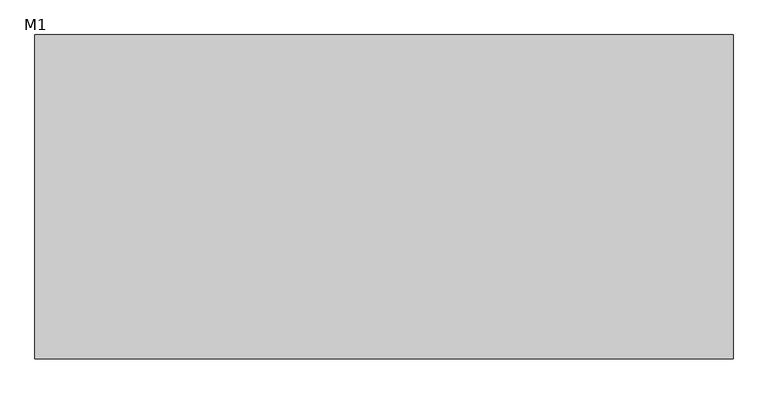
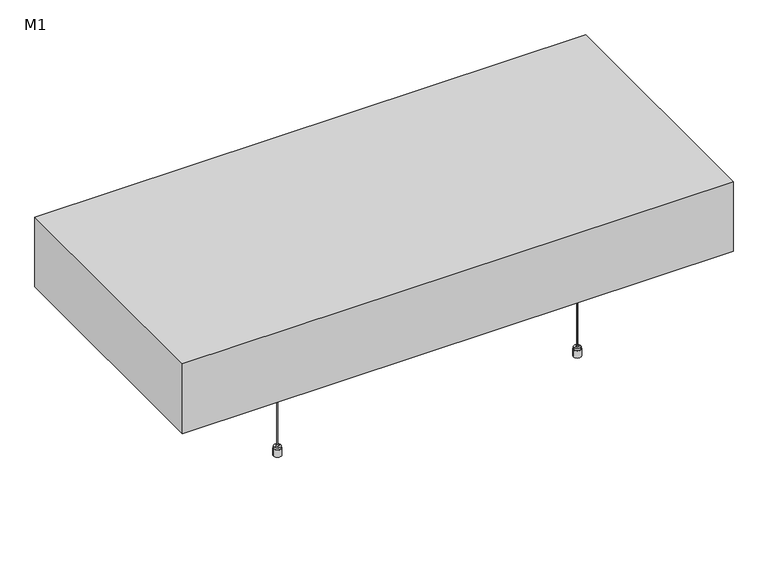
"""IFC4 building model written with IfcOpenShell, lengths in millimetres: proxy geometry, OWA Corpus : M1."""

from ifc_helpers import new_model, si_unit, point, frame, frame_2d, origin, place, context, project, spatial, polyline, circle_curve, trimmed, segment, composite_curve, outline, extrude, faceted_brep, source, transform, mapped, element, save
from ifc_brep_helpers import plane_surface, cylinder_surface, revolved_surface, advanced_brep


def m1_c52b9d84(model_context):
    return source(origin(), model_context, "Body", "SolidModel", [
        advanced_brep(
        [(-128.5, -152.5, 0.0), (-120.7593825, -152.5, 0.0), (-136.2406175, -152.5, 0.0), (-120.7593825, -152.5, 15.0), (-136.2406175, -152.5, 15.0), (-121.6843825, -152.5, 15.0), (-135.3156175, -152.5, 15.0), (-121.6843825, -152.5, 19.0), (-135.3156175, -152.5, 19.0), (-126.4343825, -152.5, 19.0), (-130.5656175, -152.5, 19.0), (-126.4343825, -152.5, 22.546183), (-130.5656175, -152.5, 22.546183), (-128.5, -152.5, 22.546183)],
        [
            (0, 1),
            (1, 2, circle_curve(frame((-128.5, -152.5, 0.0), z_axis=(0.0, 0.0, -1.0), x_axis=(-1.0, 0.0, 0.0)), 7.7406175)),
            (2, 0),
            (2, 1, circle_curve(frame((-128.5, -152.5, 0.0), z_axis=(0.0, 0.0, -1.0), x_axis=(-1.0, 0.0, 0.0)), 7.7406175)),
            (1, 3),
            (3, 4, circle_curve(frame((-128.5, -152.5, 15.0), z_axis=(0.0, 0.0, -1.0), x_axis=(-1.0, 0.0, 0.0)), 7.7406175)),
            (4, 2),
            (4, 3, circle_curve(frame((-128.5, -152.5, 15.0), z_axis=(0.0, 0.0, -1.0), x_axis=(-1.0, 0.0, 0.0)), 7.7406175)),
            (3, 5),
            (5, 6, circle_curve(frame((-128.5, -152.5, 15.0), z_axis=(0.0, 0.0, -1.0), x_axis=(-1.0, 0.0, 0.0)), 6.8156175)),
            (6, 4),
            (6, 5, circle_curve(frame((-128.5, -152.5, 15.0), z_axis=(0.0, 0.0, -1.0), x_axis=(-1.0, 0.0, 0.0)), 6.8156175)),
            (5, 7),
            (7, 8, circle_curve(frame((-128.5, -152.5, 19.0), z_axis=(0.0, 0.0, -1.0), x_axis=(-1.0, 0.0, 0.0)), 6.8156175)),
            (8, 6),
            (8, 7, circle_curve(frame((-128.5, -152.5, 19.0), z_axis=(0.0, 0.0, -1.0), x_axis=(-1.0, 0.0, 0.0)), 6.8156175)),
            (7, 9),
            (9, 10, circle_curve(frame((-128.5, -152.5, 19.0), z_axis=(0.0, 0.0, -1.0), x_axis=(-1.0, 0.0, 0.0)), 2.0656175)),
            (10, 8),
            (10, 9, circle_curve(frame((-128.5, -152.5, 19.0), z_axis=(0.0, 0.0, -1.0), x_axis=(-1.0, 0.0, 0.0)), 2.0656175)),
            (9, 11),
            (11, 12, circle_curve(frame((-128.5, -152.5, 22.546183), z_axis=(0.0, 0.0, -1.0), x_axis=(-1.0, 0.0, 0.0)), 2.0656175)),
            (12, 10),
            (12, 11, circle_curve(frame((-128.5, -152.5, 22.546183), z_axis=(0.0, 0.0, -1.0), x_axis=(-1.0, 0.0, 0.0)), 2.0656175)),
            (11, 13),
            (13, 12),
        ],
        [
            plane_surface(frame((-128.5, -152.5, 0.0), z_axis=(0.0, 0.0, -1.0), x_axis=(-1.0, 0.0, 0.0))),
            cylinder_surface(frame((-128.5, -152.5, -10.0), z_axis=(0.0, 0.0, -1.0), x_axis=(-1.0, 0.0, 0.0)), 7.7406175),
            plane_surface(frame((-128.5, -152.5, 15.0), z_axis=(0.0, 0.0, 1.0), x_axis=(-1.0, 0.0, 0.0))),
            cylinder_surface(frame((-128.5, -152.5, -10.0), z_axis=(0.0, 0.0, -1.0), x_axis=(-1.0, 0.0, 0.0)), 6.8156175),
            plane_surface(frame((-128.5, -152.5, 19.0), z_axis=(0.0, 0.0, 1.0), x_axis=(-1.0, 0.0, 0.0))),
            cylinder_surface(frame((-128.5, -152.5, -10.0), z_axis=(0.0, 0.0, -1.0), x_axis=(-1.0, 0.0, 0.0)), 2.0656175),
            plane_surface(frame((-128.5, -152.5, 22.546183), z_axis=(0.0, 0.0, 1.0), x_axis=(-1.0, 0.0, 0.0))),
        ],
        [
            (0, [[1, 2, 3]]),
            (0, [[-3, 4, -1]]),
            (1, [[5, 6, 7, -2]]),
            (1, [[-7, 8, -5, -4]]),
            (2, [[9, 10, 11, -6]]),
            (2, [[-11, 12, -9, -8]]),
            (3, [[13, 14, 15, -10]]),
            (3, [[-15, 16, -13, -12]]),
            (4, [[17, 18, 19, -14]]),
            (4, [[-19, 20, -17, -16]]),
            (5, [[21, 22, 23, -18]]),
            (5, [[-23, 24, -21, -20]]),
            (6, [[25, 26, -22]]),
            (6, [[-26, -25, -24]]),
        ],
    ),
        advanced_brep(
        [(-126.2615389, -152.5, 278.8211737), (-126.1339453, -152.5, 282.8711737), (-130.8660547, -152.5, 282.8711737), (-130.7384611, -152.5, 278.8211737), (-123.6339453, -152.5, 282.8711737), (-133.3660547, -152.5, 282.8711737), (-123.6339453, -152.5, 308.1211737), (-133.3660547, -152.5, 308.1211737), (-112.6339453, -152.5, 308.1211737), (-144.3660547, -152.5, 308.1211737), (-112.6339453, -152.5, 310.0), (-144.3660547, -152.5, 310.0), (-128.5, -152.5, 310.0), (-128.5, -152.5, 278.8211737)],
        [
            (0, 1),
            (1, 2, circle_curve(frame((-128.5, -152.5, 282.8711737), z_axis=(0.0, 0.0, -1.0), x_axis=(-1.0, 0.0, 0.0)), 2.3660547)),
            (2, 3),
            (3, 0, circle_curve(frame((-128.5, -152.5, 278.8211737), z_axis=(0.0, 0.0, 1.0), x_axis=(-1.0, 0.0, 0.0)), 2.2384611)),
            (2, 1, circle_curve(frame((-128.5, -152.5, 282.8711737), z_axis=(0.0, 0.0, -1.0), x_axis=(-1.0, 0.0, 0.0)), 2.3660547)),
            (0, 3, circle_curve(frame((-128.5, -152.5, 278.8211737), z_axis=(0.0, 0.0, 1.0), x_axis=(-1.0, 0.0, 0.0)), 2.2384611)),
            (1, 4),
            (4, 5, circle_curve(frame((-128.5, -152.5, 282.8711737), z_axis=(0.0, 0.0, -1.0), x_axis=(-1.0, 0.0, 0.0)), 4.8660547)),
            (5, 2),
            (5, 4, circle_curve(frame((-128.5, -152.5, 282.8711737), z_axis=(0.0, 0.0, -1.0), x_axis=(-1.0, 0.0, 0.0)), 4.8660547)),
            (4, 6),
            (6, 7, circle_curve(frame((-128.5, -152.5, 308.1211737), z_axis=(0.0, 0.0, -1.0), x_axis=(-1.0, 0.0, 0.0)), 4.8660547)),
            (7, 5),
            (7, 6, circle_curve(frame((-128.5, -152.5, 308.1211737), z_axis=(0.0, 0.0, -1.0), x_axis=(-1.0, 0.0, 0.0)), 4.8660547)),
            (6, 8),
            (8, 9, circle_curve(frame((-128.5, -152.5, 308.1211737), z_axis=(0.0, 0.0, -1.0), x_axis=(-1.0, 0.0, 0.0)), 15.8660547)),
            (9, 7),
            (9, 8, circle_curve(frame((-128.5, -152.5, 308.1211737), z_axis=(0.0, 0.0, -1.0), x_axis=(-1.0, 0.0, 0.0)), 15.8660547)),
            (8, 10),
            (10, 11, circle_curve(frame((-128.5, -152.5, 310.0), z_axis=(0.0, 0.0, -1.0), x_axis=(-1.0, 0.0, 0.0)), 15.8660547)),
            (11, 9),
            (11, 10, circle_curve(frame((-128.5, -152.5, 310.0), z_axis=(0.0, 0.0, -1.0), x_axis=(-1.0, 0.0, 0.0)), 15.8660547)),
            (10, 12),
            (12, 11),
            (13, 0),
            (3, 13),
        ],
        [
            revolved_surface(polyline([(-130.8660547, -152.5, 282.8711737), (-130.7384611, -152.5, 278.8211737)]), (-128.5, -152.5, 311.8401096), (0.0, 0.0, -1.0)),
            plane_surface(frame((-128.5, -152.5, 282.8711737), z_axis=(0.0, 0.0, -1.0), x_axis=(-1.0, 0.0, 0.0))),
            cylinder_surface(frame((-128.5, -152.5, 311.8401096), z_axis=(0.0, 0.0, -1.0), x_axis=(-1.0, 0.0, 0.0)), 4.8660547),
            plane_surface(frame((-128.5, -152.5, 308.1211737), z_axis=(0.0, 0.0, -1.0), x_axis=(-1.0, 0.0, 0.0))),
            cylinder_surface(frame((-128.5, -152.5, 311.8401096), z_axis=(0.0, 0.0, -1.0), x_axis=(-1.0, 0.0, 0.0)), 15.8660547),
            plane_surface(frame((-128.5, -152.5, 310.0), z_axis=(0.0, 0.0, 1.0), x_axis=(-1.0, 0.0, 0.0))),
            plane_surface(frame((-128.5, -152.5, 278.8211737), z_axis=(0.0, 0.0, -1.0), x_axis=(-1.0, 0.0, 0.0))),
        ],
        [
            (0, [[1, 2, 3, 4]]),
            (0, [[-3, 5, -1, 6]]),
            (1, [[7, 8, 9, -2]]),
            (1, [[-9, 10, -7, -5]]),
            (2, [[11, 12, 13, -8]]),
            (2, [[-13, 14, -11, -10]]),
            (3, [[15, 16, 17, -12]]),
            (3, [[-17, 18, -15, -14]]),
            (4, [[19, 20, 21, -16]]),
            (4, [[-21, 22, -19, -18]]),
            (5, [[23, 24, -20]]),
            (5, [[-24, -23, -22]]),
            (6, [[25, -4, 26]]),
            (6, [[-26, -6, -25]]),
        ],
    ),
        extrude(outline(composite_curve([segment(trimmed(circle_curve(frame_2d((-128.5, -152.5)), 1.0), [point((-129.5, -152.5))], [point((-127.5, -152.5))], False, "CARTESIAN"), True, "CONTINUOUS"), segment(trimmed(circle_curve(frame_2d((-128.5, -152.5)), 1.0), [point((-127.5, -152.5))], [point((-129.5, -152.5))], False, "CARTESIAN"), True, "CONTINUOUS")], self_intersect=False)), frame((0.0, 0.0, 22.546183), z_axis=(0.0, 0.0, 1.0), x_axis=(1.0, 0.0, 0.0)), (0.0, 0.0, 1.0), 256.2749908),
        advanced_brep(
        [(-128.5, 152.5, 0.0), (-136.2406175, 152.5, 0.0), (-120.7593825, 152.5, 0.0), (-136.2406175, 152.5, 15.0), (-120.7593825, 152.5, 15.0), (-135.3156175, 152.5, 15.0), (-121.6843825, 152.5, 15.0), (-135.3156175, 152.5, 19.0), (-121.6843825, 152.5, 19.0), (-130.5656175, 152.5, 19.0), (-126.4343825, 152.5, 19.0), (-130.5656175, 152.5, 22.546183), (-126.4343825, 152.5, 22.546183), (-128.5, 152.5, 22.546183)],
        [
            (0, 1),
            (1, 2, circle_curve(frame((-128.5, 152.5, 0.0), z_axis=(0.0, 0.0, -1.0), x_axis=(-1.0, 0.0, 0.0)), 7.7406175)),
            (2, 0),
            (2, 1, circle_curve(frame((-128.5, 152.5, 0.0), z_axis=(0.0, 0.0, -1.0), x_axis=(-1.0, 0.0, 0.0)), 7.7406175)),
            (1, 3),
            (3, 4, circle_curve(frame((-128.5, 152.5, 15.0), z_axis=(0.0, 0.0, -1.0), x_axis=(-1.0, 0.0, 0.0)), 7.7406175)),
            (4, 2),
            (4, 3, circle_curve(frame((-128.5, 152.5, 15.0), z_axis=(0.0, 0.0, -1.0), x_axis=(-1.0, 0.0, 0.0)), 7.7406175)),
            (3, 5),
            (5, 6, circle_curve(frame((-128.5, 152.5, 15.0), z_axis=(0.0, 0.0, -1.0), x_axis=(-1.0, 0.0, 0.0)), 6.8156175)),
            (6, 4),
            (6, 5, circle_curve(frame((-128.5, 152.5, 15.0), z_axis=(0.0, 0.0, -1.0), x_axis=(-1.0, 0.0, 0.0)), 6.8156175)),
            (5, 7),
            (7, 8, circle_curve(frame((-128.5, 152.5, 19.0), z_axis=(0.0, 0.0, -1.0), x_axis=(-1.0, 0.0, 0.0)), 6.8156175)),
            (8, 6),
            (8, 7, circle_curve(frame((-128.5, 152.5, 19.0), z_axis=(0.0, 0.0, -1.0), x_axis=(-1.0, 0.0, 0.0)), 6.8156175)),
            (7, 9),
            (9, 10, circle_curve(frame((-128.5, 152.5, 19.0), z_axis=(0.0, 0.0, -1.0), x_axis=(-1.0, 0.0, 0.0)), 2.0656175)),
            (10, 8),
            (10, 9, circle_curve(frame((-128.5, 152.5, 19.0), z_axis=(0.0, 0.0, -1.0), x_axis=(-1.0, 0.0, 0.0)), 2.0656175)),
            (9, 11),
            (11, 12, circle_curve(frame((-128.5, 152.5, 22.546183), z_axis=(0.0, 0.0, -1.0), x_axis=(-1.0, 0.0, 0.0)), 2.0656175)),
            (12, 10),
            (12, 11, circle_curve(frame((-128.5, 152.5, 22.546183), z_axis=(0.0, 0.0, -1.0), x_axis=(-1.0, 0.0, 0.0)), 2.0656175)),
            (11, 13),
            (13, 12),
        ],
        [
            plane_surface(frame((-128.5, 152.5, 0.0), z_axis=(0.0, 0.0, -1.0), x_axis=(-1.0, 0.0, 0.0))),
            cylinder_surface(frame((-128.5, 152.5, -10.0), z_axis=(0.0, 0.0, -1.0), x_axis=(-1.0, 0.0, 0.0)), 7.7406175),
            plane_surface(frame((-128.5, 152.5, 15.0), z_axis=(0.0, 0.0, 1.0), x_axis=(-1.0, 0.0, 0.0))),
            cylinder_surface(frame((-128.5, 152.5, -10.0), z_axis=(0.0, 0.0, -1.0), x_axis=(-1.0, 0.0, 0.0)), 6.8156175),
            plane_surface(frame((-128.5, 152.5, 19.0), z_axis=(0.0, 0.0, 1.0), x_axis=(-1.0, 0.0, 0.0))),
            cylinder_surface(frame((-128.5, 152.5, -10.0), z_axis=(0.0, 0.0, -1.0), x_axis=(-1.0, 0.0, 0.0)), 2.0656175),
            plane_surface(frame((-128.5, 152.5, 22.546183), z_axis=(0.0, 0.0, 1.0), x_axis=(-1.0, 0.0, 0.0))),
        ],
        [
            (0, [[1, 2, 3]]),
            (0, [[-3, 4, -1]]),
            (1, [[-2, 5, 6, 7]]),
            (1, [[-4, -7, 8, -5]]),
            (2, [[-6, 9, 10, 11]]),
            (2, [[-8, -11, 12, -9]]),
            (3, [[-10, 13, 14, 15]]),
            (3, [[-12, -15, 16, -13]]),
            (4, [[-14, 17, 18, 19]]),
            (4, [[-16, -19, 20, -17]]),
            (5, [[-18, 21, 22, 23]]),
            (5, [[-20, -23, 24, -21]]),
            (6, [[-22, 25, 26]]),
            (6, [[-24, -26, -25]]),
        ],
    ),
        advanced_brep(
        [(-126.2615389, 152.5, 278.8211737), (-130.7384611, 152.5, 278.8211737), (-130.8660547, 152.5, 282.8711737), (-126.1339453, 152.5, 282.8711737), (-133.3660547, 152.5, 282.8711737), (-123.6339453, 152.5, 282.8711737), (-133.3660547, 152.5, 308.1211737), (-123.6339453, 152.5, 308.1211737), (-144.3660547, 152.5, 308.1211737), (-112.6339453, 152.5, 308.1211737), (-144.3660547, 152.5, 310.0), (-112.6339453, 152.5, 310.0), (-128.5, 152.5, 310.0), (-128.5, 152.5, 278.8211737)],
        [
            (0, 1, circle_curve(frame((-128.5, 152.5, 278.8211737), z_axis=(0.0, 0.0, 1.0), x_axis=(-1.0, 0.0, 0.0)), 2.2384611)),
            (1, 2),
            (2, 3, circle_curve(frame((-128.5, 152.5, 282.8711737), z_axis=(0.0, 0.0, -1.0), x_axis=(-1.0, 0.0, 0.0)), 2.3660547)),
            (3, 0),
            (1, 0, circle_curve(frame((-128.5, 152.5, 278.8211737), z_axis=(0.0, 0.0, 1.0), x_axis=(-1.0, 0.0, 0.0)), 2.2384611)),
            (3, 2, circle_curve(frame((-128.5, 152.5, 282.8711737), z_axis=(0.0, 0.0, -1.0), x_axis=(-1.0, 0.0, 0.0)), 2.3660547)),
            (2, 4),
            (4, 5, circle_curve(frame((-128.5, 152.5, 282.8711737), z_axis=(0.0, 0.0, -1.0), x_axis=(-1.0, 0.0, 0.0)), 4.8660547)),
            (5, 3),
            (5, 4, circle_curve(frame((-128.5, 152.5, 282.8711737), z_axis=(0.0, 0.0, -1.0), x_axis=(-1.0, 0.0, 0.0)), 4.8660547)),
            (4, 6),
            (6, 7, circle_curve(frame((-128.5, 152.5, 308.1211737), z_axis=(0.0, 0.0, -1.0), x_axis=(-1.0, 0.0, 0.0)), 4.8660547)),
            (7, 5),
            (7, 6, circle_curve(frame((-128.5, 152.5, 308.1211737), z_axis=(0.0, 0.0, -1.0), x_axis=(-1.0, 0.0, 0.0)), 4.8660547)),
            (6, 8),
            (8, 9, circle_curve(frame((-128.5, 152.5, 308.1211737), z_axis=(0.0, 0.0, -1.0), x_axis=(-1.0, 0.0, 0.0)), 15.8660547)),
            (9, 7),
            (9, 8, circle_curve(frame((-128.5, 152.5, 308.1211737), z_axis=(0.0, 0.0, -1.0), x_axis=(-1.0, 0.0, 0.0)), 15.8660547)),
            (8, 10),
            (10, 11, circle_curve(frame((-128.5, 152.5, 310.0), z_axis=(0.0, 0.0, -1.0), x_axis=(-1.0, 0.0, 0.0)), 15.8660547)),
            (11, 9),
            (11, 10, circle_curve(frame((-128.5, 152.5, 310.0), z_axis=(0.0, 0.0, -1.0), x_axis=(-1.0, 0.0, 0.0)), 15.8660547)),
            (10, 12),
            (12, 11),
            (13, 1),
            (0, 13),
        ],
        [
            revolved_surface(polyline([(-130.8660547, 152.5, 282.8711737), (-130.7384611, 152.5, 278.8211737)]), (-128.5, 152.5, 311.8401096), (0.0, 0.0, -1.0)),
            plane_surface(frame((-128.5, 152.5, 282.8711737), z_axis=(0.0, 0.0, -1.0), x_axis=(-1.0, 0.0, 0.0))),
            cylinder_surface(frame((-128.5, 152.5, 311.8401096), z_axis=(0.0, 0.0, -1.0), x_axis=(-1.0, 0.0, 0.0)), 4.8660547),
            plane_surface(frame((-128.5, 152.5, 308.1211737), z_axis=(0.0, 0.0, -1.0), x_axis=(-1.0, 0.0, 0.0))),
            cylinder_surface(frame((-128.5, 152.5, 311.8401096), z_axis=(0.0, 0.0, -1.0), x_axis=(-1.0, 0.0, 0.0)), 15.8660547),
            plane_surface(frame((-128.5, 152.5, 310.0), z_axis=(0.0, 0.0, 1.0), x_axis=(-1.0, 0.0, 0.0))),
            plane_surface(frame((-128.5, 152.5, 278.8211737), z_axis=(0.0, 0.0, -1.0), x_axis=(-1.0, 0.0, 0.0))),
        ],
        [
            (0, [[1, 2, 3, 4]]),
            (0, [[5, -4, 6, -2]]),
            (1, [[-3, 7, 8, 9]]),
            (1, [[-6, -9, 10, -7]]),
            (2, [[-8, 11, 12, 13]]),
            (2, [[-10, -13, 14, -11]]),
            (3, [[-12, 15, 16, 17]]),
            (3, [[-14, -17, 18, -15]]),
            (4, [[-16, 19, 20, 21]]),
            (4, [[-18, -21, 22, -19]]),
            (5, [[-20, 23, 24]]),
            (5, [[-22, -24, -23]]),
            (6, [[25, -1, 26]]),
            (6, [[-26, -5, -25]]),
        ],
    ),
        extrude(outline(composite_curve([segment(trimmed(circle_curve(frame_2d((-128.5, 152.5)), 1.0), [point((-129.5, 152.5))], [point((-127.5, 152.5))], False, "CARTESIAN"), True, "CONTINUOUS"), segment(trimmed(circle_curve(frame_2d((-128.5, 152.5)), 1.0), [point((-127.5, 152.5))], [point((-129.5, 152.5))], False, "CARTESIAN"), True, "CONTINUOUS")], self_intersect=False)), frame((0.0, 0.0, 22.546183), z_axis=(0.0, 0.0, 1.0), x_axis=(1.0, 0.0, 0.0)), (0.0, 0.0, 1.0), 256.2749908),
        advanced_brep(
        [(-738.5, -152.5, 0.0), (-730.7593825, -152.5, 0.0), (-746.2406175, -152.5, 0.0), (-730.7593825, -152.5, 15.0), (-746.2406175, -152.5, 15.0), (-731.6843825, -152.5, 15.0), (-745.3156175, -152.5, 15.0), (-731.6843825, -152.5, 19.0), (-745.3156175, -152.5, 19.0), (-736.4343825, -152.5, 19.0), (-740.5656175, -152.5, 19.0), (-736.4343825, -152.5, 22.546183), (-740.5656175, -152.5, 22.546183), (-738.5, -152.5, 22.546183)],
        [
            (0, 1),
            (1, 2, circle_curve(frame((-738.5, -152.5, 0.0), z_axis=(0.0, 0.0, -1.0), x_axis=(-1.0, 0.0, 0.0)), 7.7406175)),
            (2, 0),
            (2, 1, circle_curve(frame((-738.5, -152.5, 0.0), z_axis=(0.0, 0.0, -1.0), x_axis=(-1.0, 0.0, 0.0)), 7.7406175)),
            (1, 3),
            (3, 4, circle_curve(frame((-738.5, -152.5, 15.0), z_axis=(0.0, 0.0, -1.0), x_axis=(-1.0, 0.0, 0.0)), 7.7406175)),
            (4, 2),
            (4, 3, circle_curve(frame((-738.5, -152.5, 15.0), z_axis=(0.0, 0.0, -1.0), x_axis=(-1.0, 0.0, 0.0)), 7.7406175)),
            (3, 5),
            (5, 6, circle_curve(frame((-738.5, -152.5, 15.0), z_axis=(0.0, 0.0, -1.0), x_axis=(-1.0, 0.0, 0.0)), 6.8156175)),
            (6, 4),
            (6, 5, circle_curve(frame((-738.5, -152.5, 15.0), z_axis=(0.0, 0.0, -1.0), x_axis=(-1.0, 0.0, 0.0)), 6.8156175)),
            (5, 7),
            (7, 8, circle_curve(frame((-738.5, -152.5, 19.0), z_axis=(0.0, 0.0, -1.0), x_axis=(-1.0, 0.0, 0.0)), 6.8156175)),
            (8, 6),
            (8, 7, circle_curve(frame((-738.5, -152.5, 19.0), z_axis=(0.0, 0.0, -1.0), x_axis=(-1.0, 0.0, 0.0)), 6.8156175)),
            (7, 9),
            (9, 10, circle_curve(frame((-738.5, -152.5, 19.0), z_axis=(0.0, 0.0, -1.0), x_axis=(-1.0, 0.0, 0.0)), 2.0656175)),
            (10, 8),
            (10, 9, circle_curve(frame((-738.5, -152.5, 19.0), z_axis=(0.0, 0.0, -1.0), x_axis=(-1.0, 0.0, 0.0)), 2.0656175)),
            (9, 11),
            (11, 12, circle_curve(frame((-738.5, -152.5, 22.546183), z_axis=(0.0, 0.0, -1.0), x_axis=(-1.0, 0.0, 0.0)), 2.0656175)),
            (12, 10),
            (12, 11, circle_curve(frame((-738.5, -152.5, 22.546183), z_axis=(0.0, 0.0, -1.0), x_axis=(-1.0, 0.0, 0.0)), 2.0656175)),
            (11, 13),
            (13, 12),
        ],
        [
            plane_surface(frame((-738.5, -152.5, 0.0), z_axis=(0.0, 0.0, -1.0), x_axis=(-1.0, 0.0, 0.0))),
            cylinder_surface(frame((-738.5, -152.5, -10.0), z_axis=(0.0, 0.0, -1.0), x_axis=(-1.0, 0.0, 0.0)), 7.7406175),
            plane_surface(frame((-738.5, -152.5, 15.0), z_axis=(0.0, 0.0, 1.0), x_axis=(-1.0, 0.0, 0.0))),
            cylinder_surface(frame((-738.5, -152.5, -10.0), z_axis=(0.0, 0.0, -1.0), x_axis=(-1.0, 0.0, 0.0)), 6.8156175),
            plane_surface(frame((-738.5, -152.5, 19.0), z_axis=(0.0, 0.0, 1.0), x_axis=(-1.0, 0.0, 0.0))),
            cylinder_surface(frame((-738.5, -152.5, -10.0), z_axis=(0.0, 0.0, -1.0), x_axis=(-1.0, 0.0, 0.0)), 2.0656175),
            plane_surface(frame((-738.5, -152.5, 22.546183), z_axis=(0.0, 0.0, 1.0), x_axis=(-1.0, 0.0, 0.0))),
        ],
        [
            (0, [[1, 2, 3]]),
            (0, [[-3, 4, -1]]),
            (1, [[5, 6, 7, -2]]),
            (1, [[-7, 8, -5, -4]]),
            (2, [[9, 10, 11, -6]]),
            (2, [[-11, 12, -9, -8]]),
            (3, [[13, 14, 15, -10]]),
            (3, [[-15, 16, -13, -12]]),
            (4, [[17, 18, 19, -14]]),
            (4, [[-19, 20, -17, -16]]),
            (5, [[21, 22, 23, -18]]),
            (5, [[-23, 24, -21, -20]]),
            (6, [[25, 26, -22]]),
            (6, [[-26, -25, -24]]),
        ],
    ),
        advanced_brep(
        [(-736.2615389, -152.5, 278.8211737), (-736.1339453, -152.5, 282.8711737), (-740.8660547, -152.5, 282.8711737), (-740.7384611, -152.5, 278.8211737), (-733.6339453, -152.5, 282.8711737), (-743.3660547, -152.5, 282.8711737), (-733.6339453, -152.5, 308.1211737), (-743.3660547, -152.5, 308.1211737), (-722.6339453, -152.5, 308.1211737), (-754.3660547, -152.5, 308.1211737), (-722.6339453, -152.5, 310.0), (-754.3660547, -152.5, 310.0), (-738.5, -152.5, 310.0), (-738.5, -152.5, 278.8211737)],
        [
            (0, 1),
            (1, 2, circle_curve(frame((-738.5, -152.5, 282.8711737), z_axis=(0.0, 0.0, -1.0), x_axis=(-1.0, 0.0, 0.0)), 2.3660547)),
            (2, 3),
            (3, 0, circle_curve(frame((-738.5, -152.5, 278.8211737), z_axis=(0.0, 0.0, 1.0), x_axis=(-1.0, 0.0, 0.0)), 2.2384611)),
            (2, 1, circle_curve(frame((-738.5, -152.5, 282.8711737), z_axis=(0.0, 0.0, -1.0), x_axis=(-1.0, 0.0, 0.0)), 2.3660547)),
            (0, 3, circle_curve(frame((-738.5, -152.5, 278.8211737), z_axis=(0.0, 0.0, 1.0), x_axis=(-1.0, 0.0, 0.0)), 2.2384611)),
            (1, 4),
            (4, 5, circle_curve(frame((-738.5, -152.5, 282.8711737), z_axis=(0.0, 0.0, -1.0), x_axis=(-1.0, 0.0, 0.0)), 4.8660547)),
            (5, 2),
            (5, 4, circle_curve(frame((-738.5, -152.5, 282.8711737), z_axis=(0.0, 0.0, -1.0), x_axis=(-1.0, 0.0, 0.0)), 4.8660547)),
            (4, 6),
            (6, 7, circle_curve(frame((-738.5, -152.5, 308.1211737), z_axis=(0.0, 0.0, -1.0), x_axis=(-1.0, 0.0, 0.0)), 4.8660547)),
            (7, 5),
            (7, 6, circle_curve(frame((-738.5, -152.5, 308.1211737), z_axis=(0.0, 0.0, -1.0), x_axis=(-1.0, 0.0, 0.0)), 4.8660547)),
            (6, 8),
            (8, 9, circle_curve(frame((-738.5, -152.5, 308.1211737), z_axis=(0.0, 0.0, -1.0), x_axis=(-1.0, 0.0, 0.0)), 15.8660547)),
            (9, 7),
            (9, 8, circle_curve(frame((-738.5, -152.5, 308.1211737), z_axis=(0.0, 0.0, -1.0), x_axis=(-1.0, 0.0, 0.0)), 15.8660547)),
            (8, 10),
            (10, 11, circle_curve(frame((-738.5, -152.5, 310.0), z_axis=(0.0, 0.0, -1.0), x_axis=(-1.0, 0.0, 0.0)), 15.8660547)),
            (11, 9),
            (11, 10, circle_curve(frame((-738.5, -152.5, 310.0), z_axis=(0.0, 0.0, -1.0), x_axis=(-1.0, 0.0, 0.0)), 15.8660547)),
            (10, 12),
            (12, 11),
            (13, 0),
            (3, 13),
        ],
        [
            revolved_surface(polyline([(-740.8660547, -152.5, 282.8711737), (-740.7384611, -152.5, 278.8211737)]), (-738.5, -152.5, 311.8401096), (0.0, 0.0, -1.0)),
            plane_surface(frame((-738.5, -152.5, 282.8711737), z_axis=(0.0, 0.0, -1.0), x_axis=(-1.0, 0.0, 0.0))),
            cylinder_surface(frame((-738.5, -152.5, 311.8401096), z_axis=(0.0, 0.0, -1.0), x_axis=(-1.0, 0.0, 0.0)), 4.8660547),
            plane_surface(frame((-738.5, -152.5, 308.1211737), z_axis=(0.0, 0.0, -1.0), x_axis=(-1.0, 0.0, 0.0))),
            cylinder_surface(frame((-738.5, -152.5, 311.8401096), z_axis=(0.0, 0.0, -1.0), x_axis=(-1.0, 0.0, 0.0)), 15.8660547),
            plane_surface(frame((-738.5, -152.5, 310.0), z_axis=(0.0, 0.0, 1.0), x_axis=(-1.0, 0.0, 0.0))),
            plane_surface(frame((-738.5, -152.5, 278.8211737), z_axis=(0.0, 0.0, -1.0), x_axis=(-1.0, 0.0, 0.0))),
        ],
        [
            (0, [[1, 2, 3, 4]]),
            (0, [[-3, 5, -1, 6]]),
            (1, [[7, 8, 9, -2]]),
            (1, [[-9, 10, -7, -5]]),
            (2, [[11, 12, 13, -8]]),
            (2, [[-13, 14, -11, -10]]),
            (3, [[15, 16, 17, -12]]),
            (3, [[-17, 18, -15, -14]]),
            (4, [[19, 20, 21, -16]]),
            (4, [[-21, 22, -19, -18]]),
            (5, [[23, 24, -20]]),
            (5, [[-24, -23, -22]]),
            (6, [[25, -4, 26]]),
            (6, [[-26, -6, -25]]),
        ],
    ),
        extrude(outline(composite_curve([segment(trimmed(circle_curve(frame_2d((-738.5, -152.5)), 1.0), [point((-739.5, -152.5))], [point((-737.5, -152.5))], False, "CARTESIAN"), True, "CONTINUOUS"), segment(trimmed(circle_curve(frame_2d((-738.5, -152.5)), 1.0), [point((-737.5, -152.5))], [point((-739.5, -152.5))], False, "CARTESIAN"), True, "CONTINUOUS")], self_intersect=False)), frame((0.0, 0.0, 22.546183), z_axis=(0.0, 0.0, 1.0), x_axis=(1.0, 0.0, 0.0)), (0.0, 0.0, 1.0), 256.2749908),
        advanced_brep(
        [(-738.5, 152.5, 0.0), (-746.2406175, 152.5, 0.0), (-730.7593825, 152.5, 0.0), (-746.2406175, 152.5, 15.0), (-730.7593825, 152.5, 15.0), (-745.3156175, 152.5, 15.0), (-731.6843825, 152.5, 15.0), (-745.3156175, 152.5, 19.0), (-731.6843825, 152.5, 19.0), (-740.5656175, 152.5, 19.0), (-736.4343825, 152.5, 19.0), (-740.5656175, 152.5, 22.546183), (-736.4343825, 152.5, 22.546183), (-738.5, 152.5, 22.546183)],
        [
            (0, 1),
            (1, 2, circle_curve(frame((-738.5, 152.5, 0.0), z_axis=(0.0, 0.0, -1.0), x_axis=(-1.0, 0.0, 0.0)), 7.7406175)),
            (2, 0),
            (2, 1, circle_curve(frame((-738.5, 152.5, 0.0), z_axis=(0.0, 0.0, -1.0), x_axis=(-1.0, 0.0, 0.0)), 7.7406175)),
            (1, 3),
            (3, 4, circle_curve(frame((-738.5, 152.5, 15.0), z_axis=(0.0, 0.0, -1.0), x_axis=(-1.0, 0.0, 0.0)), 7.7406175)),
            (4, 2),
            (4, 3, circle_curve(frame((-738.5, 152.5, 15.0), z_axis=(0.0, 0.0, -1.0), x_axis=(-1.0, 0.0, 0.0)), 7.7406175)),
            (3, 5),
            (5, 6, circle_curve(frame((-738.5, 152.5, 15.0), z_axis=(0.0, 0.0, -1.0), x_axis=(-1.0, 0.0, 0.0)), 6.8156175)),
            (6, 4),
            (6, 5, circle_curve(frame((-738.5, 152.5, 15.0), z_axis=(0.0, 0.0, -1.0), x_axis=(-1.0, 0.0, 0.0)), 6.8156175)),
            (5, 7),
            (7, 8, circle_curve(frame((-738.5, 152.5, 19.0), z_axis=(0.0, 0.0, -1.0), x_axis=(-1.0, 0.0, 0.0)), 6.8156175)),
            (8, 6),
            (8, 7, circle_curve(frame((-738.5, 152.5, 19.0), z_axis=(0.0, 0.0, -1.0), x_axis=(-1.0, 0.0, 0.0)), 6.8156175)),
            (7, 9),
            (9, 10, circle_curve(frame((-738.5, 152.5, 19.0), z_axis=(0.0, 0.0, -1.0), x_axis=(-1.0, 0.0, 0.0)), 2.0656175)),
            (10, 8),
            (10, 9, circle_curve(frame((-738.5, 152.5, 19.0), z_axis=(0.0, 0.0, -1.0), x_axis=(-1.0, 0.0, 0.0)), 2.0656175)),
            (9, 11),
            (11, 12, circle_curve(frame((-738.5, 152.5, 22.546183), z_axis=(0.0, 0.0, -1.0), x_axis=(-1.0, 0.0, 0.0)), 2.0656175)),
            (12, 10),
            (12, 11, circle_curve(frame((-738.5, 152.5, 22.546183), z_axis=(0.0, 0.0, -1.0), x_axis=(-1.0, 0.0, 0.0)), 2.0656175)),
            (11, 13),
            (13, 12),
        ],
        [
            plane_surface(frame((-738.5, 152.5, 0.0), z_axis=(0.0, 0.0, -1.0), x_axis=(-1.0, 0.0, 0.0))),
            cylinder_surface(frame((-738.5, 152.5, -10.0), z_axis=(0.0, 0.0, -1.0), x_axis=(-1.0, 0.0, 0.0)), 7.7406175),
            plane_surface(frame((-738.5, 152.5, 15.0), z_axis=(0.0, 0.0, 1.0), x_axis=(-1.0, 0.0, 0.0))),
            cylinder_surface(frame((-738.5, 152.5, -10.0), z_axis=(0.0, 0.0, -1.0), x_axis=(-1.0, 0.0, 0.0)), 6.8156175),
            plane_surface(frame((-738.5, 152.5, 19.0), z_axis=(0.0, 0.0, 1.0), x_axis=(-1.0, 0.0, 0.0))),
            cylinder_surface(frame((-738.5, 152.5, -10.0), z_axis=(0.0, 0.0, -1.0), x_axis=(-1.0, 0.0, 0.0)), 2.0656175),
            plane_surface(frame((-738.5, 152.5, 22.546183), z_axis=(0.0, 0.0, 1.0), x_axis=(-1.0, 0.0, 0.0))),
        ],
        [
            (0, [[1, 2, 3]]),
            (0, [[-3, 4, -1]]),
            (1, [[-2, 5, 6, 7]]),
            (1, [[-4, -7, 8, -5]]),
            (2, [[-6, 9, 10, 11]]),
            (2, [[-8, -11, 12, -9]]),
            (3, [[-10, 13, 14, 15]]),
            (3, [[-12, -15, 16, -13]]),
            (4, [[-14, 17, 18, 19]]),
            (4, [[-16, -19, 20, -17]]),
            (5, [[-18, 21, 22, 23]]),
            (5, [[-20, -23, 24, -21]]),
            (6, [[-22, 25, 26]]),
            (6, [[-24, -26, -25]]),
        ],
    ),
        advanced_brep(
        [(-736.2615389, 152.5, 278.8211737), (-740.7384611, 152.5, 278.8211737), (-740.8660547, 152.5, 282.8711737), (-736.1339453, 152.5, 282.8711737), (-743.3660547, 152.5, 282.8711737), (-733.6339453, 152.5, 282.8711737), (-743.3660547, 152.5, 308.1211737), (-733.6339453, 152.5, 308.1211737), (-754.3660547, 152.5, 308.1211737), (-722.6339453, 152.5, 308.1211737), (-754.3660547, 152.5, 310.0), (-722.6339453, 152.5, 310.0), (-738.5, 152.5, 310.0), (-738.5, 152.5, 278.8211737)],
        [
            (0, 1, circle_curve(frame((-738.5, 152.5, 278.8211737), z_axis=(0.0, 0.0, 1.0), x_axis=(-1.0, 0.0, 0.0)), 2.2384611)),
            (1, 2),
            (2, 3, circle_curve(frame((-738.5, 152.5, 282.8711737), z_axis=(0.0, 0.0, -1.0), x_axis=(-1.0, 0.0, 0.0)), 2.3660547)),
            (3, 0),
            (1, 0, circle_curve(frame((-738.5, 152.5, 278.8211737), z_axis=(0.0, 0.0, 1.0), x_axis=(-1.0, 0.0, 0.0)), 2.2384611)),
            (3, 2, circle_curve(frame((-738.5, 152.5, 282.8711737), z_axis=(0.0, 0.0, -1.0), x_axis=(-1.0, 0.0, 0.0)), 2.3660547)),
            (2, 4),
            (4, 5, circle_curve(frame((-738.5, 152.5, 282.8711737), z_axis=(0.0, 0.0, -1.0), x_axis=(-1.0, 0.0, 0.0)), 4.8660547)),
            (5, 3),
            (5, 4, circle_curve(frame((-738.5, 152.5, 282.8711737), z_axis=(0.0, 0.0, -1.0), x_axis=(-1.0, 0.0, 0.0)), 4.8660547)),
            (4, 6),
            (6, 7, circle_curve(frame((-738.5, 152.5, 308.1211737), z_axis=(0.0, 0.0, -1.0), x_axis=(-1.0, 0.0, 0.0)), 4.8660547)),
            (7, 5),
            (7, 6, circle_curve(frame((-738.5, 152.5, 308.1211737), z_axis=(0.0, 0.0, -1.0), x_axis=(-1.0, 0.0, 0.0)), 4.8660547)),
            (6, 8),
            (8, 9, circle_curve(frame((-738.5, 152.5, 308.1211737), z_axis=(0.0, 0.0, -1.0), x_axis=(-1.0, 0.0, 0.0)), 15.8660547)),
            (9, 7),
            (9, 8, circle_curve(frame((-738.5, 152.5, 308.1211737), z_axis=(0.0, 0.0, -1.0), x_axis=(-1.0, 0.0, 0.0)), 15.8660547)),
            (8, 10),
            (10, 11, circle_curve(frame((-738.5, 152.5, 310.0), z_axis=(0.0, 0.0, -1.0), x_axis=(-1.0, 0.0, 0.0)), 15.8660547)),
            (11, 9),
            (11, 10, circle_curve(frame((-738.5, 152.5, 310.0), z_axis=(0.0, 0.0, -1.0), x_axis=(-1.0, 0.0, 0.0)), 15.8660547)),
            (10, 12),
            (12, 11),
            (13, 1),
            (0, 13),
        ],
        [
            revolved_surface(polyline([(-740.8660547, 152.5, 282.8711737), (-740.7384611, 152.5, 278.8211737)]), (-738.5, 152.5, 311.8401096), (0.0, 0.0, -1.0)),
            plane_surface(frame((-738.5, 152.5, 282.8711737), z_axis=(0.0, 0.0, -1.0), x_axis=(-1.0, 0.0, 0.0))),
            cylinder_surface(frame((-738.5, 152.5, 311.8401096), z_axis=(0.0, 0.0, -1.0), x_axis=(-1.0, 0.0, 0.0)), 4.8660547),
            plane_surface(frame((-738.5, 152.5, 308.1211737), z_axis=(0.0, 0.0, -1.0), x_axis=(-1.0, 0.0, 0.0))),
            cylinder_surface(frame((-738.5, 152.5, 311.8401096), z_axis=(0.0, 0.0, -1.0), x_axis=(-1.0, 0.0, 0.0)), 15.8660547),
            plane_surface(frame((-738.5, 152.5, 310.0), z_axis=(0.0, 0.0, 1.0), x_axis=(-1.0, 0.0, 0.0))),
            plane_surface(frame((-738.5, 152.5, 278.8211737), z_axis=(0.0, 0.0, -1.0), x_axis=(-1.0, 0.0, 0.0))),
        ],
        [
            (0, [[1, 2, 3, 4]]),
            (0, [[5, -4, 6, -2]]),
            (1, [[-3, 7, 8, 9]]),
            (1, [[-6, -9, 10, -7]]),
            (2, [[-8, 11, 12, 13]]),
            (2, [[-10, -13, 14, -11]]),
            (3, [[-12, 15, 16, 17]]),
            (3, [[-14, -17, 18, -15]]),
            (4, [[-16, 19, 20, 21]]),
            (4, [[-18, -21, 22, -19]]),
            (5, [[-20, 23, 24]]),
            (5, [[-22, -24, -23]]),
            (6, [[25, -1, 26]]),
            (6, [[-26, -5, -25]]),
        ],
    ),
        extrude(outline(composite_curve([segment(trimmed(circle_curve(frame_2d((-738.5, 152.5)), 1.0), [point((-739.5, 152.5))], [point((-737.5, 152.5))], False, "CARTESIAN"), True, "CONTINUOUS"), segment(trimmed(circle_curve(frame_2d((-738.5, 152.5)), 1.0), [point((-737.5, 152.5))], [point((-739.5, 152.5))], False, "CARTESIAN"), True, "CONTINUOUS")], self_intersect=False)), frame((0.0, 0.0, 22.546183), z_axis=(0.0, 0.0, 1.0), x_axis=(1.0, 0.0, 0.0)), (0.0, 0.0, 1.0), 256.2749908),
        faceted_brep([(126.5, 260.0, 350.0), (-993.5, 260.0, 350.0), (-993.5, -260.0, 350.0), (126.5, -260.0, 350.0), (86.5, 220.0, 310.0), (86.5, -220.0, 310.0), (-953.5, -220.0, 310.0), (-953.5, 220.0, 310.0), (126.5, 260.0, 200.0), (-993.5, 260.0, 200.0), (-993.5, -260.0, 200.0), (126.5, -260.0, 200.0), (86.5, 220.0, 200.0), (-953.5, 220.0, 200.0), (-953.5, -220.0, 200.0), (86.5, -220.0, 200.0)], [[[0, 1, 2, 3]], [[4, 5, 6, 7]], [[1, 0, 8, 9]], [[2, 1, 9, 10]], [[3, 2, 10, 11]], [[8, 0, 3, 11]], [[8, 11, 10, 9], [12, 13, 14, 15]], [[12, 15, 5, 4]], [[15, 14, 6, 5]], [[14, 13, 7, 6]], [[13, 12, 4, 7]]]),
    ])


if __name__ == "__main__":
    model = new_model("IFC4")
    model_context = context("Model", 3, world=origin())
    ifc_project = project(units=[si_unit("LENGTHUNIT", "METRE", prefix="MILLI")], contexts=[model_context])
    site = spatial("IfcSite", under=ifc_project)
    building = spatial("IfcBuilding", under=site)
    placement = place(None, origin())
    m1_shape = m1_c52b9d84(model_context)
    element("IfcBuildingElementProxy", 1, Name="OWA Corpus : M1", ObjectType="OWA Corpus : M1", at=placement, inside=building, context=model_context, shape_type="MappedRepresentation", body=[
        mapped(m1_shape, transform((0.0, 0.0, 0.0), x_axis=(1.0, 0.0, 0.0), y_axis=(0.0, 1.0, 0.0), z_axis=(0.0, 0.0, 1.0))),
    ])
    save(model, "model.ifc")
